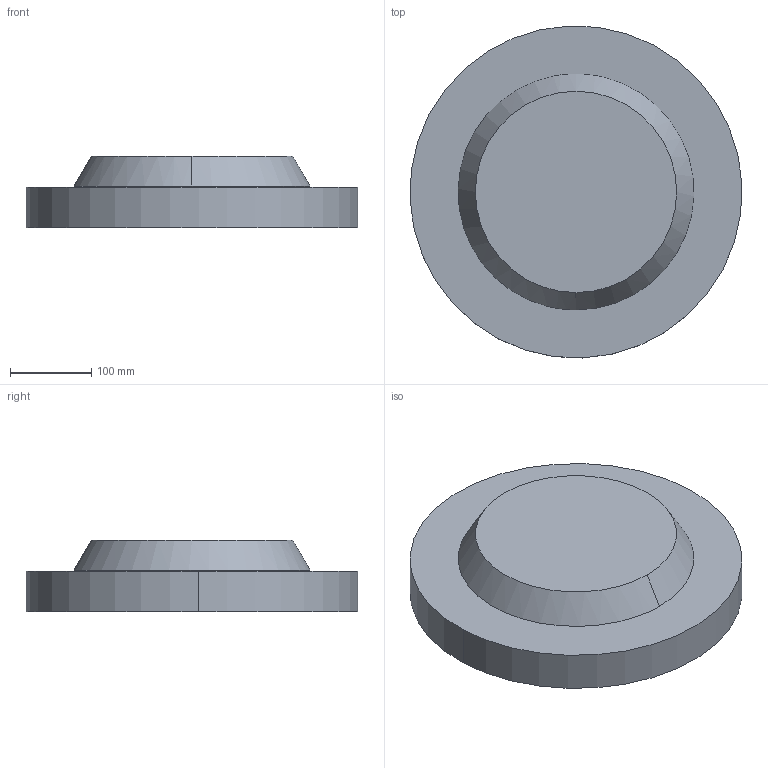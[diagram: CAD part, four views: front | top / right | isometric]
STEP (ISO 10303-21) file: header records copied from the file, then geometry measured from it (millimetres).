
FILE_DESCRIPTION(('Creo Elements/Direct Modeling STEP Export'),'2;1');
FILE_NAME('DISC LED 410 direkt.stp','2016-03-03T15:23:35',(''),(''),'Creo Elements/Direct Modeling STEP processor for AP214 (Solid Model)','Creo Elements/Direct Modeling 18.1A 09-Jun-2012 (C) Parametric Technology GmbH','');
FILE_SCHEMA(('AUTOMOTIVE_DESIGN { 1 0 10303 214 1 1 1 1 }'));
Length unit declared in the file: millimetre
Products named in the file (3): Leuchtendeckel_Aluminium_eloxiert_D292_x_38_mm; Leuchtenkörper_DISC_410; DISC_LED_410
Assembly tree (2 placements, depth 2):
  DISC_LED_410
    Leuchtenkörper_DISC_410
    Leuchtendeckel_Aluminium_eloxiert_D292_x_38_mm
Bounding box: 409.68 x 409.68 x 88.8 mm (x, y, z)
Volume: 6768408.8 mm3; surface area: 497414.3 mm2
Topology: 2 solids, 2 shells, 12 faces, 26 edges, 18 vertices
Faces by surface type: cone 6, plane 4, cylinder 2
Entity records: 359 total; most frequent: ORIENTED_EDGE 52, DIRECTION 50, CARTESIAN_POINT 47, EDGE_CURVE 26, AXIS2_PLACEMENT_3D 21, VERTEX_POINT 18, EDGE_LOOP 12, FACE_OUTER_BOUND 12
